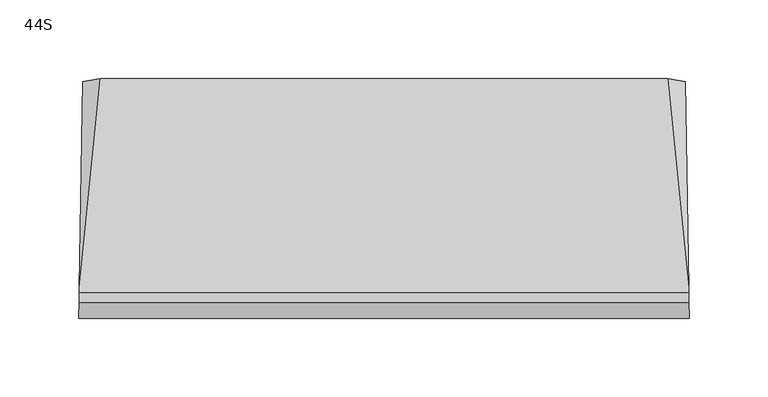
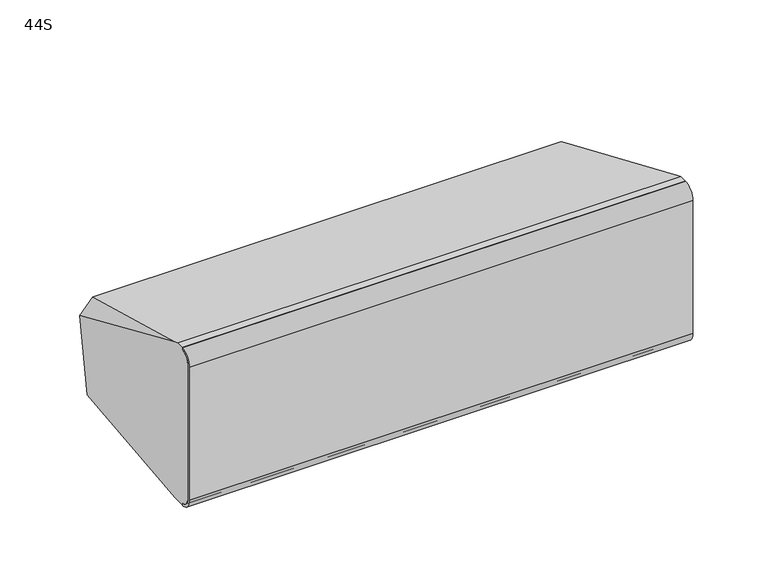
"""IFC4 building model written with IfcOpenShell, lengths in millimetres: proxy geometry, d&b xS-Series 44S Point Source : 44S."""

import ifcopenshell
import ifcopenshell.guid

model = None  # the IFC model being written
_history = None  # IfcOwnerHistory: only IFC2X3 demands one
_inside = {}  # id of a spatial element -> (the spatial element, [elements in it])
_under = {}  # id of a project, library or spatial element -> (it, [spatial elements below it])
_declared = {}  # id of a project -> (the project, [libraries it declares])
_typed = {}  # id of a type object -> (the type object, [elements of that type])
_made_of = {}  # id of a material, layer set ... -> (it, [elements and type objects made of it])


def new_model(schema):
    """Start an empty IFC model of exactly this schema.

    Asked for "IFC4X3", IfcOpenShell would pick the latest addendum, in which some entities
    have other attributes; the version numbers below select the first issue.
    IFC2X3 requires an IfcOwnerHistory on every rooted entity: one is made here for all.
    """
    global model, _history
    if schema == "IFC4X3":
        model = ifcopenshell.file(schema_version=(4, 3, 0, 0))
    else:
        model = ifcopenshell.file(schema=schema)
    _inside.clear()
    _under.clear()
    _declared.clear()
    _typed.clear()
    _made_of.clear()
    _history = None
    if model.schema == "IFC2X3":
        org = make("IfcOrganization", Name="unknown")
        user = make(
            "IfcPersonAndOrganization",
            ThePerson=make("IfcPerson", FamilyName="unknown"),
            TheOrganization=org,
        )
        app = make(
            "IfcApplication",
            ApplicationDeveloper=org,
            Version="unknown",
            ApplicationFullName="unknown",
            ApplicationIdentifier="unknown",
        )
        _history = make(
            "IfcOwnerHistory",
            OwningUser=user,
            OwningApplication=app,
            ChangeAction="ADDED",
            CreationDate=0,
        )
    return model


def make(cls, **values):
    """One entity of the class cls with the attributes given. An attribute that is None is left unset."""
    return model.create_entity(
        cls, **{name: value for name, value in values.items() if value is not None}
    )


def rooted(cls, **values):
    """An entity with a GlobalId (a new one), such as an element, a storey or a relation."""
    return make(cls, GlobalId=ifcopenshell.guid.new(), OwnerHistory=_history, **values)


def si_unit(unit_type, name, prefix=None):
    """IfcSIUnit, for example si_unit("LENGTHUNIT", "METRE", prefix="MILLI")."""
    return make("IfcSIUnit", UnitType=unit_type, Prefix=prefix, Name=name)


def assignment(units):
    """IfcUnitAssignment: the units of a project."""
    return None if units is None else make("IfcUnitAssignment", Units=units)


def point(xyz):
    """IfcCartesianPoint."""
    return None if xyz is None else make("IfcCartesianPoint", Coordinates=xyz)


def direction(xyz):
    """IfcDirection."""
    return None if xyz is None else make("IfcDirection", DirectionRatios=xyz)


def frame(location, z_axis=None, x_axis=None):
    """IfcAxis2Placement3D, a coordinate frame: its origin and axes. An axis left out is left unset."""
    return make(
        "IfcAxis2Placement3D",
        Location=point(location),
        Axis=direction(z_axis),
        RefDirection=direction(x_axis),
    )


def origin():
    """The frame at (0, 0, 0) with its axes left unset."""
    return frame((0.0, 0.0, 0.0))


def place(relative_to, where):
    """IfcLocalPlacement: puts the frame where relative to a parent placement (None: the world)."""
    return make(
        "IfcLocalPlacement", PlacementRelTo=relative_to, RelativePlacement=where
    )


def context(
    kind, dimensions, precision=None, world=None, true_north=None, identifier=None
):
    """IfcGeometricRepresentationContext, for example the 3D "Model" context."""
    return make(
        "IfcGeometricRepresentationContext",
        ContextIdentifier=identifier,
        ContextType=kind,
        CoordinateSpaceDimension=dimensions,
        Precision=precision,
        WorldCoordinateSystem=world,
        TrueNorth=true_north,
    )


def project(units=None, contexts=None):
    """IfcProject with its units and contexts."""
    return rooted(
        "IfcProject",
        Name="project",
        RepresentationContexts=contexts,
        UnitsInContext=assignment(units),
    )


def spatial(cls, under=None, at=None, **own):
    """A site, building, storey or space (cls), placed at a placement, below another one or the project."""
    s = rooted(cls, ObjectPlacement=at, **own)
    if under is not None:
        _under.setdefault(under.id(), (under, []))[1].append(s)
    return s


def polyline(points):
    """IfcPolyline through the points."""
    return make("IfcPolyline", Points=[point(p) for p in points])


def circle_curve(where, radius):
    """IfcCircle in the frame where."""
    return make("IfcCircle", Position=where, Radius=radius)


def ellipse_curve(where, semi_axis1, semi_axis2):
    """IfcEllipse in the frame where."""
    return make(
        "IfcEllipse", Position=where, SemiAxis1=semi_axis1, SemiAxis2=semi_axis2
    )


def shape(context_of_items, identifier, shape_type, items):
    """IfcShapeRepresentation: the items that make up one representation, for example the "Body"."""
    return make(
        "IfcShapeRepresentation",
        ContextOfItems=context_of_items,
        RepresentationIdentifier=identifier,
        RepresentationType=shape_type,
        Items=items,
    )


def source(mapping_origin, context_of_items, identifier, shape_type, items):
    """IfcRepresentationMap: a shape defined once, which mapped items show again and again."""
    return make(
        "IfcRepresentationMap",
        MappingOrigin=mapping_origin,
        MappedRepresentation=shape(context_of_items, identifier, shape_type, items),
    )


def transform(
    local_origin,
    x_axis=None,
    y_axis=None,
    z_axis=None,
    scale=None,
    scale2=None,
    scale3=None,
    uniform=True,
):
    """IfcCartesianTransformationOperator3D, or its non-uniform kind. x_axis, y_axis, z_axis: its Axis1, 2, 3."""
    if uniform:
        return make(
            "IfcCartesianTransformationOperator3D",
            Axis1=direction(x_axis),
            Axis2=direction(y_axis),
            LocalOrigin=point(local_origin),
            Scale=scale,
            Axis3=direction(z_axis),
        )
    return make(
        "IfcCartesianTransformationOperator3DnonUniform",
        Axis1=direction(x_axis),
        Axis2=direction(y_axis),
        LocalOrigin=point(local_origin),
        Scale=scale,
        Axis3=direction(z_axis),
        Scale2=scale2,
        Scale3=scale3,
    )


def mapped(mapping_source, mapping_target):
    """IfcMappedItem: shows the shape of a source again, moved by a transform."""
    return make(
        "IfcMappedItem", MappingSource=mapping_source, MappingTarget=mapping_target
    )


def made_of(thing, what):
    """Note that an element or type object is made of a material, layer set ...; save() writes the relation."""
    if what is not None:
        _made_of.setdefault(what.id(), (what, []))[1].append(thing)
    return thing


def element(
    cls,
    number,
    at=None,
    inside=None,
    cuts=None,
    type_object=None,
    material=None,
    context=None,
    identifier="Body",
    shape_type=None,
    held_by="IfcProductDefinitionShape",
    body=None,
    shapes=None,
    **own,
):
    """One element of the class cls, such as IfcWall. Its Tag is "e" and its number.

    at: its placement. inside: the storey or other place that contains it. cuts: it is an
    opening in that element (IfcRelVoidsElement). A single representation is given by context,
    identifier, shape_type and body (its items); several are given by shapes. held_by: the class
    of the entity that holds the representations. save() writes the other relations.
    """
    e = rooted(cls, Tag="e%d" % number, ObjectPlacement=at, **own)
    if body is not None:
        shapes = [shape(context, identifier, shape_type, body)]
    if shapes is not None:
        e.Representation = make(held_by, Representations=shapes)
    if inside is not None:
        _inside.setdefault(inside.id(), (inside, []))[1].append(e)
    if cuts is not None:
        rooted(
            "IfcRelVoidsElement", RelatingBuildingElement=cuts, RelatedOpeningElement=e
        )
    if type_object is not None:
        _typed.setdefault(type_object.id(), (type_object, []))[1].append(e)
    return made_of(e, material)


def aggregate(whole, parts):
    """IfcRelAggregates: a whole, such as a stair, and the parts it consists of."""
    return rooted("IfcRelAggregates", RelatingObject=whole, RelatedObjects=parts)


def save(model, path):
    """Write the relations noted so far, then the file.

    IfcRelAggregates (storeys below a building ...), IfcRelContainedInSpatialStructure (elements
    in a storey), IfcRelDefinesByType, IfcRelAssociatesMaterial and IfcRelDeclares: one each for
    every whole, place, type object, material and project.
    """
    for whole, parts in _under.values():
        aggregate(whole, parts)
    for where, things in _inside.values():
        rooted(
            "IfcRelContainedInSpatialStructure",
            RelatedElements=things,
            RelatingStructure=where,
        )
    for kind, things in _typed.values():
        rooted("IfcRelDefinesByType", RelatedObjects=things, RelatingType=kind)
    for what, things in _made_of.values():
        rooted("IfcRelAssociatesMaterial", RelatedObjects=things, RelatingMaterial=what)
    for by, libraries in _declared.values():
        rooted("IfcRelDeclares", RelatingContext=by, RelatedDefinitions=libraries)
    model.write(path)


def plane_surface(at):
    """IfcPlane: the flat surface through the origin of the frame at, square to its z axis."""
    return make("IfcPlane", Position=at)


def cylinder_surface(at, radius):
    """IfcCylindricalSurface: all points at the distance radius from the z axis of the frame at."""
    return make("IfcCylindricalSurface", Position=at, Radius=radius)


def revolved_surface(curve, axis_point, axis_direction):
    """IfcSurfaceOfRevolution: the curve turned about the line through axis_point along axis_direction."""
    return make(
        "IfcSurfaceOfRevolution",
        SweptCurve=make("IfcArbitraryOpenProfileDef", ProfileType="CURVE", Curve=curve),
        AxisPosition=make("IfcAxis1Placement", Location=point(axis_point), Axis=direction(axis_direction)),
    )


def advanced_brep(points, edges, surfaces, faces):
    """IfcAdvancedBrep: a solid bounded by faces that lie on surfaces and meet in shared edges.

    An edge is (start, end): straight between two places in points (the first is 0);
    or (start, end, curve); or (start, end, curve, False) where it runs against its curve.
    A face is (place in surfaces, loops), or (place, loops, False) where it looks against
    its surface's normal. A loop lists edges by number (the first is 1), with a minus sign
    where the edge is run from its end to its start. The first loop is the outer one.
    """
    corners = [point(p) for p in points]
    vertices = [make("IfcVertexPoint", VertexGeometry=c) for c in corners]
    made = []
    for start, end, *more in edges:
        made.append(
            make(
                "IfcEdgeCurve",
                EdgeStart=vertices[start],
                EdgeEnd=vertices[end],
                EdgeGeometry=more[0] if more else make("IfcPolyline", Points=[corners[start], corners[end]]),
                SameSense=more[1] if len(more) > 1 else True,
            )
        )
    hull = []
    for where, loops, *sense in faces:
        bounds = []
        for j, loop in enumerate(loops):
            ring = [make("IfcOrientedEdge", EdgeElement=made[abs(k) - 1], Orientation=k > 0) for k in loop]
            bounds.append(
                make(
                    "IfcFaceOuterBound" if j == 0 else "IfcFaceBound",
                    Bound=make("IfcEdgeLoop", EdgeList=ring),
                    Orientation=True,
                )
            )
        hull.append(make("IfcAdvancedFace", Bounds=bounds, FaceSurface=surfaces[where], SameSense=sense[0] if sense else True))
    return make("IfcAdvancedBrep", Outer=make("IfcClosedShell", CfsFaces=hull))


def proxy_44s_ca5eadcc(model_context):
    return source(origin(), model_context, "Body", "AdvancedBrep", [
        advanced_brep(
        [(-193.2924342, -66.0, -64.0), (-193.2924342, -66.0, -62.0435242), (-193.4294708, -73.9650952, -54.078429), (-193.4294708, -73.9650952, 54.0), (-193.2918337, -65.9650952, 62.0), (-193.2918337, -65.9650952, 64.0), (-193.1898069, -60.0349048, 64.0), (-193.132384, -56.6972655, 62.7855103), (-190.8800877, 74.2148737, 4.3760941), (-191.0574064, 63.9084293, -54.074657), (-193.132384, -56.6972655, -64.0), (193.2924342, -66.0, -62.0435242), (193.2924342, -66.0, -64.0), (193.132384, -56.6972655, -64.0), (191.0574064, 63.9084293, -54.074657), (190.8800877, 74.2148737, 4.3760941), (193.132384, -56.6972655, 62.7855103), (193.1898069, -60.0349048, 64.0), (193.2918337, -65.9650952, 64.0), (193.2918337, -65.9650952, 62.0), (193.4294708, -73.9650952, 54.0), (193.4294708, -73.9650952, -54.078429), (-181.3061997, 62.1583235, -64.0), (181.3061997, 62.1583235, -64.0), (179.9289467, 76.0, 14.5000481), (-179.9289467, 76.0, 14.5000481), (-138.5, 71.3365881, -11.9474751), (-138.5, 66.8217355, -37.5524767), (-128.5, 65.0852537, -47.4005542), (-51.5, 65.0852537, -47.4005542), (-41.5, 66.8217355, -37.5524767), (-41.5, 71.3365881, -11.9474751), (-51.5, 73.0730698, -2.0993976), (-128.5, 73.0730698, -2.0993976), (-138.5, 66.4125493, -11.0792343), (-128.5, 68.1490311, -1.2311567), (-51.5, 68.1490311, -1.2311567), (-41.5, 66.4125493, -11.0792343), (-41.5, 61.8976967, -36.6842358), (-51.5, 60.1612149, -46.5323134), (-128.5, 60.1612149, -46.5323134), (-138.5, 61.8976967, -36.6842358)],
        [
            (0, 1),
            (1, 2, ellipse_curve(frame((-193.2924342, -66.0, -54.078429), z_axis=(-0.999852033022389, 0.017202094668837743, 0.0), x_axis=(-0.01720209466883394, -0.999852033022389, 0.0)), 7.9662739, 7.9650952)),
            (2, 3),
            (3, 4, ellipse_curve(frame((-193.2918337, -65.9650952, 54.0), z_axis=(-0.999852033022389, 0.017202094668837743, 0.0), x_axis=(-0.01720209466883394, -0.999852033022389, 0.0)), 8.0011839, 8.0)),
            (4, 5),
            (5, 6),
            (6, 7),
            (7, 8),
            (8, 9),
            (9, 10),
            (10, 0),
            (11, 12),
            (12, 13),
            (13, 14),
            (14, 15),
            (15, 16),
            (16, 17),
            (17, 18),
            (18, 19),
            (19, 20, ellipse_curve(frame((193.2918337, -65.9650952, 54.0), z_axis=(0.9998520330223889, 0.01720209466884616, 0.0), x_axis=(-0.017202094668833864, 0.999852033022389, 0.0)), 8.0011839, 8.0)),
            (20, 21),
            (21, 11, ellipse_curve(frame((193.2924342, -66.0, -54.078429), z_axis=(0.9998520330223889, 0.01720209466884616, 0.0), x_axis=(-0.017202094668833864, 0.999852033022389, 0.0)), 7.9662739, 7.9650952)),
            (0, 12),
            (11, 1),
            (21, 2),
            (20, 3),
            (19, 4),
            (18, 5),
            (17, 6),
            (10, 22),
            (22, 23),
            (23, 13),
            (16, 24),
            (24, 25),
            (25, 7),
            (9, 22),
            (23, 14),
            (15, 24),
            (25, 8),
            (26, 27),
            (27, 28, circle_curve(frame((-128.5, 66.8217355, -37.5524767), z_axis=(0.0, -0.9848077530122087, 0.17364817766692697), x_axis=(0.0, 0.17364817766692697, 0.9848077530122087)), 10.0)),
            (28, 29),
            (29, 30, circle_curve(frame((-51.5, 66.8217355, -37.5524767), z_axis=(0.0, -0.9848077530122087, 0.17364817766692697), x_axis=(0.0, 0.17364817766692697, 0.9848077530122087)), 10.0)),
            (30, 31),
            (31, 32, circle_curve(frame((-51.5, 71.3365881, -11.9474751), z_axis=(0.0, -0.9848077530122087, 0.17364817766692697), x_axis=(0.0, 0.17364817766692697, 0.9848077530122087)), 10.0)),
            (32, 33),
            (33, 26, circle_curve(frame((-128.5, 71.3365881, -11.9474751), z_axis=(0.0, -0.9848077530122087, 0.17364817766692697), x_axis=(0.0, 0.17364817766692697, 0.9848077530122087)), 10.0)),
            (34, 35, circle_curve(frame((-128.5, 66.4125493, -11.0792343), z_axis=(0.0, 0.9848077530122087, -0.17364817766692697), x_axis=(0.0, 0.17364817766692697, 0.9848077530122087)), 10.0)),
            (35, 36),
            (36, 37, circle_curve(frame((-51.5, 66.4125493, -11.0792343), z_axis=(0.0, 0.9848077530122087, -0.17364817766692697), x_axis=(0.0, 0.17364817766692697, 0.9848077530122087)), 10.0)),
            (37, 38),
            (38, 39, circle_curve(frame((-51.5, 61.8976967, -36.6842358), z_axis=(0.0, 0.9848077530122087, -0.17364817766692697), x_axis=(0.0, 0.17364817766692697, 0.9848077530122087)), 10.0)),
            (39, 40),
            (40, 41, circle_curve(frame((-128.5, 61.8976967, -36.6842358), z_axis=(0.0, 0.9848077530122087, -0.17364817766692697), x_axis=(0.0, 0.17364817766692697, 0.9848077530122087)), 10.0)),
            (41, 34),
            (41, 27),
            (26, 34),
            (40, 28),
            (39, 29),
            (38, 30),
            (37, 31),
            (36, 32),
            (35, 33),
        ],
        [
            plane_surface(frame((-193.8309972, -97.3033587, 100.0), z_axis=(-0.999852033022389, 0.017202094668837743, 0.0), x_axis=(0.0, 0.0, -1.0))),
            plane_surface(frame((190.7119283, 83.9889493, 100.0), z_axis=(0.9998520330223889, 0.01720209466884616, 0.0), x_axis=(0.0, 0.0, -1.0))),
            plane_surface(frame((-207.1452552, -66.0, -64.0), z_axis=(0.0, -1.0, 0.0), x_axis=(1.0, 0.0, 0.0))),
            cylinder_surface(frame((207.1452552, -66.0, -54.078429), z_axis=(-1.0, 0.0, 0.0), x_axis=(0.0, 0.0, -1.0)), 7.9650952),
            plane_surface(frame((-207.1452552, -73.9650952, -54.078429), z_axis=(0.0, -1.0, 0.0), x_axis=(1.0, 0.0, 0.0))),
            cylinder_surface(frame((207.1452552, -65.9650952, 54.0), z_axis=(-1.0, 0.0, 0.0), x_axis=(0.0, 0.0, -1.0)), 8.0),
            plane_surface(frame((-207.1452552, -65.9650952, 62.0), z_axis=(0.0, -1.0, 0.0), x_axis=(1.0, 0.0, 0.0))),
            plane_surface(frame((-207.1452552, -65.9650952, 64.0), z_axis=(0.0, 0.0, 1.0), x_axis=(1.0, 0.0, 0.0))),
            plane_surface(frame((-207.1452552, -60.0349048, -64.0), z_axis=(0.0, 0.0, -1.0), x_axis=(1.0, 0.0, 0.0))),
            plane_surface(frame((0.0, 76.0, 14.5000481), z_axis=(0.0, 0.34194264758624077, 0.939720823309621), x_axis=(-1.0, 0.0, 0.0))),
            plane_surface(frame((-186.6967137, 76.0, -57.232233), z_axis=(-0.7053631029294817, 0.07018394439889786, -0.7053631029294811), x_axis=(0.7071067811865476, 0.0, -0.7071067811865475))),
            plane_surface(frame((186.6967137, 76.0, -57.232233), z_axis=(0.7053631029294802, 0.07018394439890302, -0.7053631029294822), x_axis=(0.7071067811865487, 0.0, 0.7071067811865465))),
            plane_surface(frame((186.6967137, 76.0, 7.7322812), z_axis=(0.6719558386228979, 0.31136907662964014, 0.6719558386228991), x_axis=(-0.7071067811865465, 0.0, 0.7071067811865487))),
            plane_surface(frame((-186.6967137, 76.0, 7.7322812), z_axis=(-0.6719558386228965, 0.3113690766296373, 0.6719558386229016), x_axis=(-0.7071067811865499, 0.0, -0.7071067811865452))),
            plane_surface(frame((-250.0, 59.1151772, -81.2585403), z_axis=(0.0, 0.9848077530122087, -0.17364817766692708), x_axis=(1.0, 0.0, 0.0))),
            plane_surface(frame((-138.5, 57.2342848, -63.1317591), z_axis=(0.0, 0.9848077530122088, -0.173648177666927), x_axis=(0.0, -0.173648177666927, -0.9848077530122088))),
            plane_surface(frame((-138.5, 66.4125493, -11.0792343), z_axis=(1.0, 0.0, 0.0), x_axis=(0.0, 0.9848077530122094, -0.1736481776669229))),
            revolved_surface(polyline([(-128.5, 63.63417846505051, -26.836158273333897), (-128.5, 68.55821727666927, -27.704399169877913)]), (-128.5, 66.8217355, -37.5524767), (0.0, -0.9848077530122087, 0.17364817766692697)),
            plane_surface(frame((-128.5, 60.1612149, -46.5323134), z_axis=(0.0, 0.1736481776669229, 0.9848077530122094), x_axis=(0.0, 0.9848077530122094, -0.1736481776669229))),
            revolved_surface(polyline([(-51.5, 63.63417846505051, -26.836158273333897), (-51.5, 68.55821727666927, -27.704399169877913)]), (-51.5, 66.8217355, -37.5524767), (0.0, -0.9848077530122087, 0.17364817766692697)),
            plane_surface(frame((-41.5, 61.8976967, -36.6842358), z_axis=(-1.0, 0.0, 0.0), x_axis=(0.0, 0.9848077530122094, -0.1736481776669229))),
            revolved_surface(polyline([(-51.5, 68.1490310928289, -1.2311566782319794), (-51.5, 73.07306987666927, -2.0993975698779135)]), (-51.5, 71.3365881, -11.9474751), (0.0, -0.9848077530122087, 0.17364817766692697)),
            plane_surface(frame((-51.5, 68.1490311, -1.2311567), z_axis=(0.0, -0.1736481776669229, -0.9848077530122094), x_axis=(0.0, 0.9848077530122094, -0.1736481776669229))),
            revolved_surface(polyline([(-128.5, 68.1490310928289, -1.2311566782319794), (-128.5, 73.07306987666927, -2.0993975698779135)]), (-128.5, 71.3365881, -11.9474751), (0.0, -0.9848077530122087, 0.17364817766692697)),
        ],
        [
            (0, [[1, 2, 3, 4, 5, 6, 7, 8, 9, 10, 11]]),
            (1, [[12, 13, 14, 15, 16, 17, 18, 19, 20, 21, 22]]),
            (2, [[23, -12, 24, -1]]),
            (3, [[-24, -22, 25, -2]]),
            (4, [[-25, -21, 26, -3]]),
            (5, [[-26, -20, 27, -4]]),
            (6, [[-27, -19, 28, -5]]),
            (7, [[-28, -18, 29, -6]]),
            (8, [[-23, -11, 30, 31, 32, -13]]),
            (9, [[-29, -17, 33, 34, 35, -7]]),
            (10, [[-30, -10, 36]]),
            (11, [[-32, 37, -14]]),
            (12, [[-33, -16, 38]]),
            (13, [[-35, 39, -8]]),
            (14, [[-31, -36, -9, -39, -34, -38, -15, -37], [40, 41, 42, 43, 44, 45, 46, 47]]),
            (15, [[48, 49, 50, 51, 52, 53, 54, 55]]),
            (16, [[-55, 56, -40, 57]]),
            (17, [[-54, 58, -41, -56]]),
            (18, [[-53, 59, -42, -58]]),
            (19, [[-52, 60, -43, -59]]),
            (20, [[-51, 61, -44, -60]]),
            (21, [[-50, 62, -45, -61]]),
            (22, [[-49, 63, -46, -62]]),
            (23, [[-48, -57, -47, -63]]),
        ],
    ),
        advanced_brep(
        [(-193.4294708, -73.9650952, 54.0), (-193.4294708, -73.9650952, -54.078429), (-193.2924342, -66.0, -62.0435242), (-193.2924342, -66.0, -64.0), (-193.4644806, -76.0, -54.0), (-193.4644806, -76.0, 54.0), (-193.2918337, -65.9650952, 64.0349048), (-193.2918337, -65.9650952, 62.0), (193.4294708, -73.9650952, -54.078429), (193.4294708, -73.9650952, 54.0), (193.2918337, -65.9650952, 62.0), (193.2918337, -65.9650952, 64.0349048), (193.4644806, -76.0, 54.0), (193.4644806, -76.0, -54.0), (193.2924342, -66.0, -64.0), (193.2924342, -66.0, -62.0435242)],
        [
            (0, 1),
            (1, 2, ellipse_curve(frame((-193.2924342, -66.0, -54.078429), z_axis=(0.999852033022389, -0.017202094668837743, 0.0), x_axis=(0.01720209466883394, 0.999852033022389, 0.0)), 7.9662739, 7.9650952)),
            (2, 3),
            (3, 4, ellipse_curve(frame((-193.2924342, -66.0, -54.0), z_axis=(-0.999852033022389, 0.017202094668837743, 0.0), x_axis=(-0.01720209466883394, -0.999852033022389, 0.0)), 10.0014799, 10.0)),
            (4, 5),
            (5, 6, ellipse_curve(frame((-193.2918337, -65.9650952, 54.0), z_axis=(-0.999852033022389, 0.017202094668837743, 0.0), x_axis=(-0.01720209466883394, -0.999852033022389, 0.0)), 10.0363899, 10.0349048)),
            (6, 7),
            (7, 0, ellipse_curve(frame((-193.2918337, -65.9650952, 54.0), z_axis=(0.999852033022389, -0.017202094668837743, 0.0), x_axis=(0.01720209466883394, 0.999852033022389, 0.0)), 8.0011839, 8.0)),
            (8, 9),
            (9, 10, ellipse_curve(frame((193.2918337, -65.9650952, 54.0), z_axis=(-0.9998520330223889, -0.01720209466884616, 0.0), x_axis=(0.017202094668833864, -0.999852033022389, 0.0)), 8.0011839, 8.0)),
            (10, 11),
            (11, 12, ellipse_curve(frame((193.2918337, -65.9650952, 54.0), z_axis=(0.9998520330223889, 0.01720209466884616, 0.0), x_axis=(-0.017202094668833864, 0.999852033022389, 0.0)), 10.0363899, 10.0349048)),
            (12, 13),
            (13, 14, ellipse_curve(frame((193.2924342, -66.0, -54.0), z_axis=(0.9998520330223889, 0.01720209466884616, 0.0), x_axis=(-0.017202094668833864, 0.999852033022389, 0.0)), 10.0014799, 10.0)),
            (14, 15),
            (15, 8, ellipse_curve(frame((193.2924342, -66.0, -54.078429), z_axis=(-0.9998520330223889, -0.01720209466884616, 0.0), x_axis=(0.017202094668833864, -0.999852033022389, 0.0)), 7.9662739, 7.9650952)),
            (0, 9),
            (8, 1),
            (15, 2),
            (14, 3),
            (13, 4),
            (12, 5),
            (11, 6),
            (10, 7),
        ],
        [
            plane_surface(frame((-193.8309972, -97.3033587, 100.0), z_axis=(-0.999852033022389, 0.017202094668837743, 0.0), x_axis=(0.0, 0.0, -1.0))),
            plane_surface(frame((190.7119283, 83.9889493, 100.0), z_axis=(0.9998520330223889, 0.01720209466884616, 0.0), x_axis=(0.0, 0.0, -1.0))),
            plane_surface(frame((-202.5, -73.9650952, 54.0), z_axis=(0.0, 1.0, 0.0), x_axis=(1.0, 0.0, 0.0))),
            revolved_surface(polyline([(193.4294708, -66.0, -46.1133338), (-193.4294708, -66.0, -46.1133338)]), (202.5, -66.0, -54.078429), (1.0, 0.0, 0.0)),
            plane_surface(frame((-202.5, -66.0, -62.0435242), z_axis=(0.0, 1.0, 0.0), x_axis=(1.0, 0.0, 0.0))),
            cylinder_surface(frame((202.5, -66.0, -54.0), z_axis=(-1.0, 0.0, 0.0), x_axis=(0.0, 0.0, 1.0)), 10.0),
            plane_surface(frame((-202.5, -76.0, -54.0), z_axis=(0.0, -1.0, 0.0), x_axis=(1.0, 0.0, 0.0))),
            cylinder_surface(frame((202.5, -65.9650952, 54.0), z_axis=(-1.0, 0.0, 0.0), x_axis=(0.0, 0.0, 1.0)), 10.0349048),
            plane_surface(frame((-202.5, -65.9650952, 64.0349048), z_axis=(0.0, 1.0, 0.0), x_axis=(1.0, 0.0, 0.0))),
            revolved_surface(polyline([(193.42947082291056, -65.9650952, 62.0), (-193.42947082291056, -65.9650952, 62.0)]), (202.5, -65.9650952, 54.0), (1.0, 0.0, 0.0)),
        ],
        [
            (0, [[1, 2, 3, 4, 5, 6, 7, 8]]),
            (1, [[9, 10, 11, 12, 13, 14, 15, 16]]),
            (2, [[17, -9, 18, -1]]),
            (3, [[-18, -16, 19, -2]]),
            (4, [[-19, -15, 20, -3]]),
            (5, [[-20, -14, 21, -4]]),
            (6, [[-21, -13, 22, -5]]),
            (7, [[-22, -12, 23, -6]]),
            (8, [[-23, -11, 24, -7]]),
            (9, [[-17, -8, -24, -10]]),
        ],
    ),
        advanced_brep(
        [(-193.4294708, -73.9650952, 54.0), (-193.4294708, -73.9650952, -54.078429), (-193.2924342, -66.0, -62.0435242), (-193.2924342, -66.0, -64.0), (-193.4644806, -76.0, -54.0), (-193.4644806, -76.0, 54.0), (-193.2918337, -65.9650952, 64.0349048), (-193.2918337, -65.9650952, 62.0), (193.4294708, -73.9650952, -54.078429), (193.4294708, -73.9650952, 54.0), (193.2918337, -65.9650952, 62.0), (193.2918337, -65.9650952, 64.0349048), (193.4644806, -76.0, 54.0), (193.4644806, -76.0, -54.0), (193.2924342, -66.0, -64.0), (193.2924342, -66.0, -62.0435242)],
        [
            (0, 1),
            (1, 2, ellipse_curve(frame((-193.2924342, -66.0, -54.078429), z_axis=(0.999852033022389, -0.017202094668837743, 0.0), x_axis=(0.01720209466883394, 0.999852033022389, 0.0)), 7.9662739, 7.9650952)),
            (2, 3),
            (3, 4, ellipse_curve(frame((-193.2924342, -66.0, -54.0), z_axis=(-0.999852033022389, 0.017202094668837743, 0.0), x_axis=(-0.01720209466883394, -0.999852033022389, 0.0)), 10.0014799, 10.0)),
            (4, 5),
            (5, 6, ellipse_curve(frame((-193.2918337, -65.9650952, 54.0), z_axis=(-0.999852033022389, 0.017202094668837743, 0.0), x_axis=(-0.01720209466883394, -0.999852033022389, 0.0)), 10.0363899, 10.0349048)),
            (6, 7),
            (7, 0, ellipse_curve(frame((-193.2918337, -65.9650952, 54.0), z_axis=(0.999852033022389, -0.017202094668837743, 0.0), x_axis=(0.01720209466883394, 0.999852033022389, 0.0)), 8.0011839, 8.0)),
            (8, 9),
            (9, 10, ellipse_curve(frame((193.2918337, -65.9650952, 54.0), z_axis=(-0.9998520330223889, -0.01720209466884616, 0.0), x_axis=(0.017202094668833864, -0.999852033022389, 0.0)), 8.0011839, 8.0)),
            (10, 11),
            (11, 12, ellipse_curve(frame((193.2918337, -65.9650952, 54.0), z_axis=(0.9998520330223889, 0.01720209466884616, 0.0), x_axis=(-0.017202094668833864, 0.999852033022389, 0.0)), 10.0363899, 10.0349048)),
            (12, 13),
            (13, 14, ellipse_curve(frame((193.2924342, -66.0, -54.0), z_axis=(0.9998520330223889, 0.01720209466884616, 0.0), x_axis=(-0.017202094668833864, 0.999852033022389, 0.0)), 10.0014799, 10.0)),
            (14, 15),
            (15, 8, ellipse_curve(frame((193.2924342, -66.0, -54.078429), z_axis=(-0.9998520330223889, -0.01720209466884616, 0.0), x_axis=(0.017202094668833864, -0.999852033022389, 0.0)), 7.9662739, 7.9650952)),
            (0, 9),
            (8, 1),
            (15, 2),
            (14, 3),
            (13, 4),
            (12, 5),
            (11, 6),
            (10, 7),
        ],
        [
            plane_surface(frame((-193.8309972, -97.3033587, 100.0), z_axis=(-0.999852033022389, 0.017202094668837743, 0.0), x_axis=(0.0, 0.0, -1.0))),
            plane_surface(frame((190.7119283, 83.9889493, 100.0), z_axis=(0.9998520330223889, 0.01720209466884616, 0.0), x_axis=(0.0, 0.0, -1.0))),
            plane_surface(frame((-202.5, -73.9650952, 54.0), z_axis=(0.0, 1.0, 0.0), x_axis=(1.0, 0.0, 0.0))),
            revolved_surface(polyline([(193.4294708, -66.0, -46.1133338), (-193.4294708, -66.0, -46.1133338)]), (202.5, -66.0, -54.078429), (1.0, 0.0, 0.0)),
            plane_surface(frame((-202.5, -66.0, -62.0435242), z_axis=(0.0, 1.0, 0.0), x_axis=(1.0, 0.0, 0.0))),
            cylinder_surface(frame((202.5, -66.0, -54.0), z_axis=(-1.0, 0.0, 0.0), x_axis=(0.0, 0.0, 1.0)), 10.0),
            plane_surface(frame((-202.5, -76.0, -54.0), z_axis=(0.0, -1.0, 0.0), x_axis=(1.0, 0.0, 0.0))),
            cylinder_surface(frame((202.5, -65.9650952, 54.0), z_axis=(-1.0, 0.0, 0.0), x_axis=(0.0, 0.0, 1.0)), 10.0349048),
            plane_surface(frame((-202.5, -65.9650952, 64.0349048), z_axis=(0.0, 1.0, 0.0), x_axis=(1.0, 0.0, 0.0))),
            revolved_surface(polyline([(193.42947082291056, -65.9650952, 62.0), (-193.42947082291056, -65.9650952, 62.0)]), (202.5, -65.9650952, 54.0), (1.0, 0.0, 0.0)),
        ],
        [
            (0, [[1, 2, 3, 4, 5, 6, 7, 8]]),
            (1, [[9, 10, 11, 12, 13, 14, 15, 16]]),
            (2, [[17, -9, 18, -1]]),
            (3, [[-18, -16, 19, -2]]),
            (4, [[-19, -15, 20, -3]]),
            (5, [[-20, -14, 21, -4]]),
            (6, [[-21, -13, 22, -5]]),
            (7, [[-22, -12, 23, -6]]),
            (8, [[-23, -11, 24, -7]]),
            (9, [[-17, -8, -24, -10]]),
        ],
    ),
    ])


if __name__ == "__main__":
    model = new_model("IFC4")
    model_context = context("Model", 3, world=origin())
    ifc_project = project(units=[si_unit("LENGTHUNIT", "METRE", prefix="MILLI")], contexts=[model_context])
    site = spatial("IfcSite", under=ifc_project)
    building = spatial("IfcBuilding", under=site)
    placement = place(None, origin())
    proxy_44s_shape = proxy_44s_ca5eadcc(model_context)
    element("IfcBuildingElementProxy", 1, Name="d&b xS-Series 44S Point Source : 44S", ObjectType="d&b xS-Series 44S Point Source : 44S", at=placement, inside=building, context=model_context, shape_type="MappedRepresentation", body=[
        mapped(proxy_44s_shape, transform((0.0, 0.0, 0.0), x_axis=(1.0, 0.0, 0.0), y_axis=(0.0, 1.0, 0.0), z_axis=(0.0, 0.0, 1.0))),
    ])
    save(model, "model.ifc")
